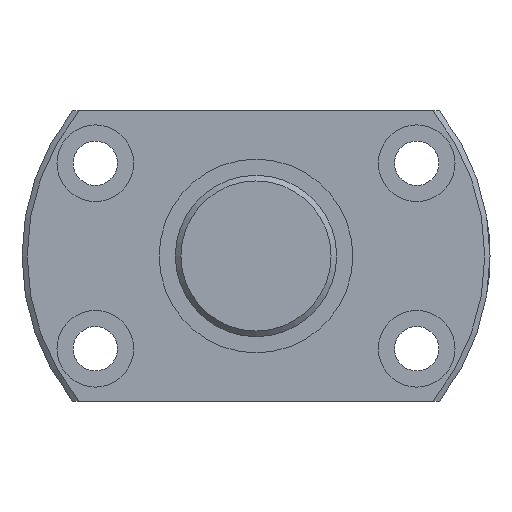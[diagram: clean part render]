
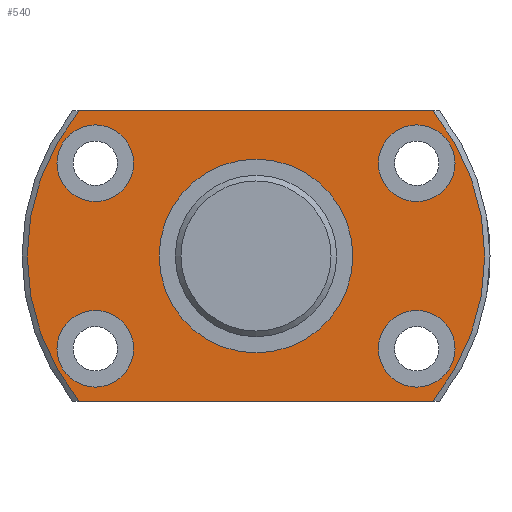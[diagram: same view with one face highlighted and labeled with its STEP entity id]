
A CAD part, left-side view. The second image highlights one B-rep face of the part: STEP entity #540.
In plain terms, the highlighted planar face has unit normal (-1, 0, 0).
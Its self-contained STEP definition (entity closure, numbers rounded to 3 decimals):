
#28=LINE('',#893,#36);
#29=LINE('',#898,#37);
#36=VECTOR('',#721,1000.);
#37=VECTOR('',#724,1000.);
#91=ORIENTED_EDGE('',*,*,#207,.T.);
#92=ORIENTED_EDGE('',*,*,#208,.T.);
#93=ORIENTED_EDGE('',*,*,#209,.T.);
#94=ORIENTED_EDGE('',*,*,#210,.T.);
#95=ORIENTED_EDGE('',*,*,#211,.T.);
#96=ORIENTED_EDGE('',*,*,#212,.F.);
#97=ORIENTED_EDGE('',*,*,#213,.T.);
#98=ORIENTED_EDGE('',*,*,#214,.F.);
#99=ORIENTED_EDGE('',*,*,#215,.T.);
#207=EDGE_CURVE('',#267,#267,#319,.T.);
#208=EDGE_CURVE('',#268,#268,#320,.T.);
#209=EDGE_CURVE('',#269,#269,#321,.T.);
#210=EDGE_CURVE('',#270,#270,#322,.T.);
#211=EDGE_CURVE('',#271,#271,#323,.T.);
#212=EDGE_CURVE('',#272,#273,#28,.T.);
#213=EDGE_CURVE('',#272,#274,#324,.F.);
#214=EDGE_CURVE('',#275,#274,#29,.T.);
#215=EDGE_CURVE('',#275,#273,#325,.F.);
#267=VERTEX_POINT('',#884);
#268=VERTEX_POINT('',#886);
#269=VERTEX_POINT('',#888);
#270=VERTEX_POINT('',#890);
#271=VERTEX_POINT('',#892);
#272=VERTEX_POINT('',#894);
#273=VERTEX_POINT('',#895);
#274=VERTEX_POINT('',#897);
#275=VERTEX_POINT('',#899);
#319=CIRCLE('',#613,12.);
#320=CIRCLE('',#614,4.75);
#321=CIRCLE('',#615,4.75);
#322=CIRCLE('',#616,4.75);
#323=CIRCLE('',#617,4.75);
#324=CIRCLE('',#618,28.35);
#325=CIRCLE('',#619,28.35);
#365=EDGE_LOOP('',(#91));
#366=EDGE_LOOP('',(#92));
#367=EDGE_LOOP('',(#93));
#368=EDGE_LOOP('',(#94));
#369=EDGE_LOOP('',(#95));
#370=EDGE_LOOP('',(#96,#97,#98,#99));
#447=FACE_BOUND('',#365,.T.);
#448=FACE_BOUND('',#366,.T.);
#449=FACE_BOUND('',#367,.T.);
#450=FACE_BOUND('',#368,.T.);
#451=FACE_BOUND('',#369,.T.);
#452=FACE_BOUND('',#370,.T.);
#523=PLANE('',#612);
#540=ADVANCED_FACE('',(#447,#448,#449,#450,#451,#452),#523,.F.);
#612=AXIS2_PLACEMENT_3D('',#882,#709,#710);
#613=AXIS2_PLACEMENT_3D('',#883,#711,#712);
#614=AXIS2_PLACEMENT_3D('',#885,#713,#714);
#615=AXIS2_PLACEMENT_3D('',#887,#715,#716);
#616=AXIS2_PLACEMENT_3D('',#889,#717,#718);
#617=AXIS2_PLACEMENT_3D('',#891,#719,#720);
#618=AXIS2_PLACEMENT_3D('',#896,#722,#723);
#619=AXIS2_PLACEMENT_3D('',#900,#725,#726);
#709=DIRECTION('',(1.,0.,0.));
#710=DIRECTION('',(0.,0.,-1.));
#711=DIRECTION('',(1.,0.,0.));
#712=DIRECTION('',(0.,0.,-1.));
#713=DIRECTION('',(1.,0.,0.));
#714=DIRECTION('',(0.,0.,-1.));
#715=DIRECTION('',(1.,0.,0.));
#716=DIRECTION('',(0.,0.,-1.));
#717=DIRECTION('',(1.,0.,0.));
#718=DIRECTION('',(0.,0.,-1.));
#719=DIRECTION('',(1.,0.,0.));
#720=DIRECTION('',(0.,0.,-1.));
#721=DIRECTION('',(0.,1.,0.));
#722=DIRECTION('',(1.,0.,0.));
#723=DIRECTION('',(0.,0.,-1.));
#724=DIRECTION('',(0.,-1.,0.));
#725=DIRECTION('',(1.,0.,0.));
#726=DIRECTION('',(0.,0.,-1.));
#882=CARTESIAN_POINT('',(0.,0.,0.));
#883=CARTESIAN_POINT('',(0.,0.,0.));
#884=CARTESIAN_POINT('',(0.,0.,-12.));
#885=CARTESIAN_POINT('',(0.,19.919,11.5));
#886=CARTESIAN_POINT('',(0.,19.919,6.75));
#887=CARTESIAN_POINT('',(0.,-19.919,-11.5));
#888=CARTESIAN_POINT('',(0.,-19.919,-16.25));
#889=CARTESIAN_POINT('',(0.,19.919,-11.5));
#890=CARTESIAN_POINT('',(0.,19.919,-16.25));
#891=CARTESIAN_POINT('',(0.,-19.919,11.5));
#892=CARTESIAN_POINT('',(0.,-19.919,6.75));
#893=CARTESIAN_POINT('',(0.,-22.738,-18.));
#894=CARTESIAN_POINT('',(0.,-21.903,-18.));
#895=CARTESIAN_POINT('',(0.,21.903,-18.));
#896=CARTESIAN_POINT('',(0.,0.,0.));
#897=CARTESIAN_POINT('',(0.,-21.903,18.));
#898=CARTESIAN_POINT('',(0.,22.738,18.));
#899=CARTESIAN_POINT('',(0.,21.903,18.));
#900=CARTESIAN_POINT('',(0.,0.,0.));
